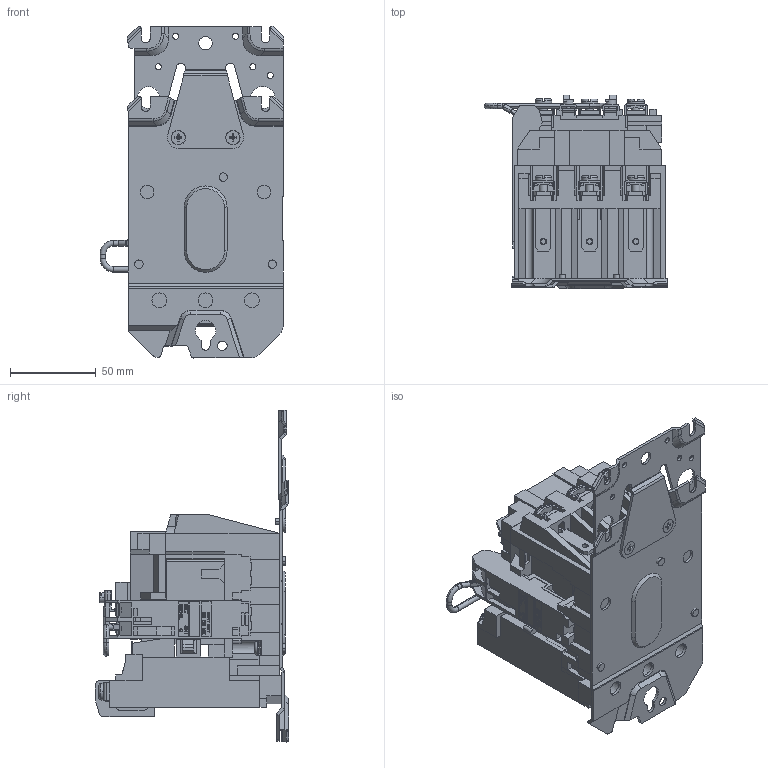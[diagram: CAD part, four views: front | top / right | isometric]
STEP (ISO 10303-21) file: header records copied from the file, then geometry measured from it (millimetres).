
FILE_DESCRIPTION((''),'2;1');
FILE_NAME('10000082151_ASM','2010-09-29T',('lequenti'),('Rockwell Automation'),'PRO/ENGINEER BY PARAMETRIC TECHNOLOGY CORPORATION, 2005110','PRO/ENGINEER BY PARAMETRIC TECHNOLOGY CORPORATION, 2005110','');
FILE_SCHEMA(('CONFIG_CONTROL_DESIGN'));
Length unit declared in the file: inch
Products named in the file (25): 40410-031; 40185-049; 28020-652; 10000062510; 10000062511; 10000062512; 10000062513; 10000062514; 10000062515; 10000062516; 10000082141; 40793-X225492; 40410-300; 40412-454_ASM; 40495-40495003; CD-40495-300; CD-40495-304; 40495-40495310; X-379256; 40495-40495458_ASM; 10000081853; 28169-100-26; 40010-183; 10000082152; 10000082151_ASM
Assembly tree (38 placements, depth 3):
  10000082151_ASM
    40410-031
    40185-049
    28020-652  x2
    40412-454_ASM
      10000062510
      10000062511
      10000062512
      10000062513
      10000062514
      10000062515  x3
      10000062516  x3
      10000082141
      40793-X225492  x6
      40410-300
    40495-40495458_ASM
      40495-40495003
      CD-40495-300
      CD-40495-304
      40495-40495310
      X-379256  x2
    10000081853  x2
    28169-100-26  x3
    40010-183
    10000082152
Bounding box: 107.32 x 113.02 x 193.68 mm (x, y, z)
Volume: 588278.7 mm3; surface area: 226147.4 mm2
Topology: 36 solids, 36 shells, 3327 faces, 9111 edges, 5932 vertices
Faces by surface type: plane 2651, cylinder 537, cone 60, bspline 45, torus 34
Entity records: 93134 total; most frequent: CARTESIAN_POINT 18364, ORIENTED_EDGE 15934, DIRECTION 14464, EDGE_CURVE 7967, VECTOR 6960, LINE 6960, VERTEX_POINT 5220, AXIS2_PLACEMENT_3D 3752
